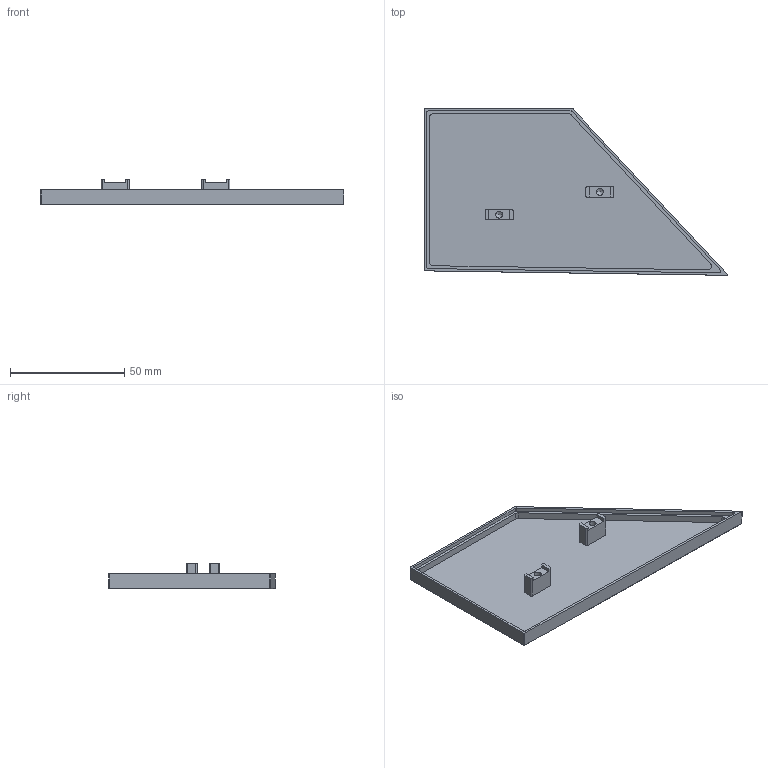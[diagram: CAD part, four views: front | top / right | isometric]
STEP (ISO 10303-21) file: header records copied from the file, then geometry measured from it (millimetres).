
FILE_DESCRIPTION (( 'STEP AP203' ), '1' );
FILE_NAME ('L09 Knife Edge Cove Right End Cap.STEP', '2023-06-28T21:49:54', ( '' ), ( '' ), 'SwSTEP 2.0', 'SolidWorks 2022', '' );
FILE_SCHEMA (( 'CONFIG_CONTROL_DESIGN' ));
Length unit declared in the file: inch
Products named in the file (1): L09 Knife Edge Cove Right End Cap
Bounding box: 132.7 x 72.84 x 11.3 mm (x, y, z)
Volume: 17394.8 mm3; surface area: 18886 mm2
Topology: 1 solids, 1 shells, 70 faces, 180 edges, 113 vertices
Faces by surface type: plane 34, cylinder 28, cone 4, torus 3, bspline 1
Entity records: 2198 total; most frequent: CARTESIAN_POINT 400, DIRECTION 370, ORIENTED_EDGE 350, EDGE_CURVE 175, AXIS2_PLACEMENT_3D 127, LINE 116, VECTOR 116, VERTEX_POINT 113
